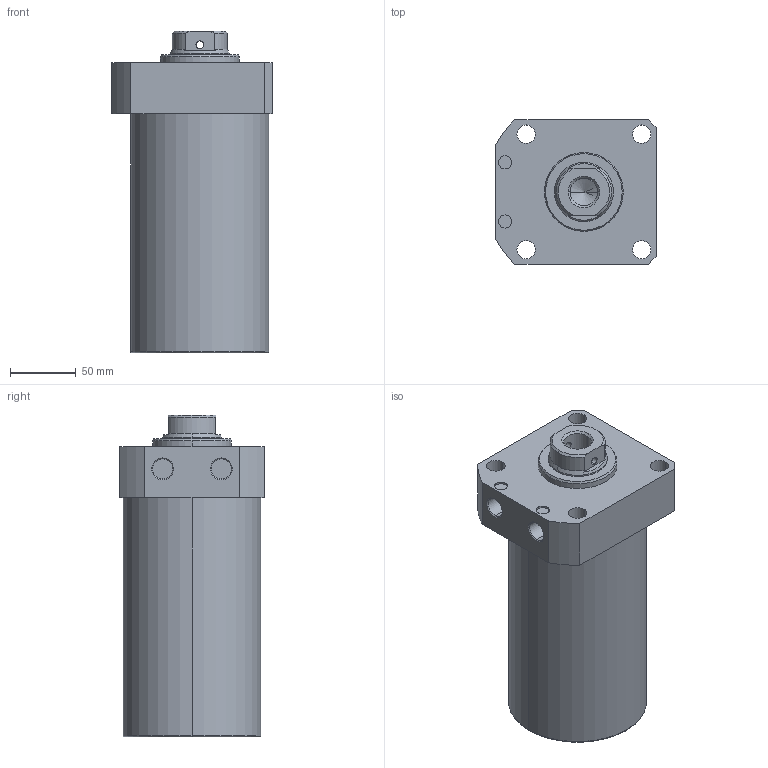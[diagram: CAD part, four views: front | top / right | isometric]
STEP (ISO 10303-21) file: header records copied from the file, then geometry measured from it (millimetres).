
FILE_DESCRIPTION (( 'STEP AP203' ), '1' );
FILE_NAME ('CLLR-105CB-135.STEP', '2019-12-18T07:38:47', ( '' ), ( '' ), 'SwSTEP 2.0', 'SolidWorks 2015', '' );
FILE_SCHEMA (( 'CONFIG_CONTROL_DESIGN' ));
Length unit declared in the file: millimetre
Products named in the file (1): CLLR-105CB-135
Bounding box: 122 x 110 x 245 mm (x, y, z)
Volume: 2072668.9 mm3; surface area: 118798.3 mm2
Topology: 1 solids, 1 shells, 69 faces, 165 edges, 104 vertices
Faces by surface type: cylinder 33, plane 19, cone 15, torus 2
Entity records: 2227 total; most frequent: CARTESIAN_POINT 481, DIRECTION 372, ORIENTED_EDGE 326, EDGE_CURVE 163, AXIS2_PLACEMENT_3D 151, VERTEX_POINT 104, EDGE_LOOP 89, CIRCLE 81
